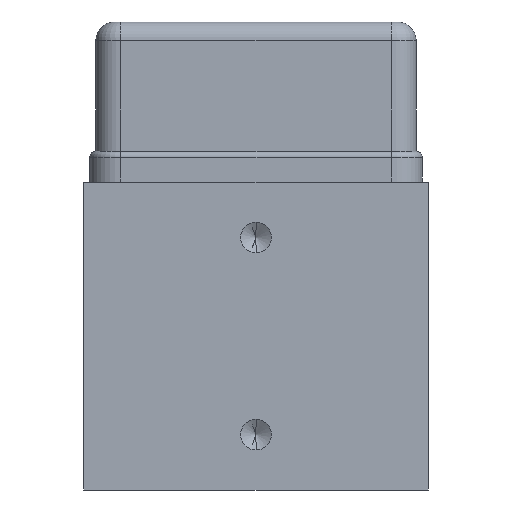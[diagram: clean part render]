
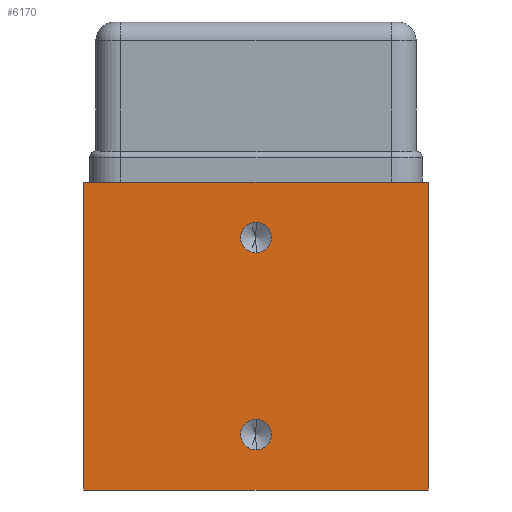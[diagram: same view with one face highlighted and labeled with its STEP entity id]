
A CAD part, front view. The second image highlights one B-rep face of the part: STEP entity #6170.
In plain terms, the highlighted planar face has unit normal (0, -1, 0).
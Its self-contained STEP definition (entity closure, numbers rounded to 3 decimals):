
#30 = VECTOR ( 'NONE', #2194, 1000. ) ;
#63 = ORIENTED_EDGE ( 'NONE', *, *, #949, .F. ) ;
#136 = CARTESIAN_POINT ( 'NONE',  ( -14., -4.5, 12.5 ) ) ;
#160 = AXIS2_PLACEMENT_3D ( 'NONE', #1490, #6901, #6924 ) ;
#248 = CARTESIAN_POINT ( 'NONE',  ( 0., -4.5, -8. ) ) ;
#401 = VERTEX_POINT ( 'NONE', #2566 ) ;
#469 = EDGE_CURVE ( 'NONE', #2289, #4056, #4036, .T. ) ;
#542 = ORIENTED_EDGE ( 'NONE', *, *, #2937, .F. ) ;
#593 = LINE ( 'NONE', #5389, #2192 ) ;
#644 = FACE_OUTER_BOUND ( 'NONE', #3718, .T. ) ;
#764 = VERTEX_POINT ( 'NONE', #3781 ) ;
#802 = CARTESIAN_POINT ( 'NONE',  ( -14., -4.5, 12.5 ) ) ;
#935 = ORIENTED_EDGE ( 'NONE', *, *, #469, .F. ) ;
#949 = EDGE_CURVE ( 'NONE', #1644, #3791, #2667, .T. ) ;
#1181 = LINE ( 'NONE', #6488, #30 ) ;
#1338 = DIRECTION ( 'NONE',  ( 0., 0., 1. ) ) ;
#1411 = EDGE_CURVE ( 'NONE', #3791, #4993, #1999, .T. ) ;
#1466 = EDGE_LOOP ( 'NONE', ( #935, #542 ) ) ;
#1490 = CARTESIAN_POINT ( 'NONE',  ( 0., -4.5, 8. ) ) ;
#1644 = VERTEX_POINT ( 'NONE', #136 ) ;
#1647 = ORIENTED_EDGE ( 'NONE', *, *, #5927, .T. ) ;
#1858 = PLANE ( 'NONE',  #6376 ) ;
#1999 = LINE ( 'NONE', #3640, #4789 ) ;
#2082 = FACE_BOUND ( 'NONE', #6124, .T. ) ;
#2175 = EDGE_CURVE ( 'NONE', #764, #4993, #593, .T. ) ;
#2192 = VECTOR ( 'NONE', #4286, 1000. ) ;
#2194 = DIRECTION ( 'NONE',  ( 0., 0., -1. ) ) ;
#2289 = VERTEX_POINT ( 'NONE', #5904 ) ;
#2356 = CIRCLE ( 'NONE', #160, 1.25 ) ;
#2361 = DIRECTION ( 'NONE',  ( 0., 1., 0. ) ) ;
#2545 = DIRECTION ( 'NONE',  ( 0., 0., -1. ) ) ;
#2566 = CARTESIAN_POINT ( 'NONE',  ( 0., -4.5, -9.25 ) ) ;
#2654 = CARTESIAN_POINT ( 'NONE',  ( 14., -4.5, -12.5 ) ) ;
#2667 = LINE ( 'NONE', #6639, #3179 ) ;
#2937 = EDGE_CURVE ( 'NONE', #4056, #2289, #2356, .T. ) ;
#3053 = ORIENTED_EDGE ( 'NONE', *, *, #1411, .F. ) ;
#3126 = ORIENTED_EDGE ( 'NONE', *, *, #4176, .F. ) ;
#3179 = VECTOR ( 'NONE', #4017, 1000. ) ;
#3411 = CARTESIAN_POINT ( 'NONE',  ( 0., -4.5, 9.25 ) ) ;
#3457 = CARTESIAN_POINT ( 'NONE',  ( 0., -4.5, 8. ) ) ;
#3640 = CARTESIAN_POINT ( 'NONE',  ( 14., -4.5, 12.5 ) ) ;
#3666 = ORIENTED_EDGE ( 'NONE', *, *, #2175, .T. ) ;
#3718 = EDGE_LOOP ( 'NONE', ( #3666, #3053, #63, #1647 ) ) ;
#3762 = FACE_BOUND ( 'NONE', #1466, .T. ) ;
#3781 = CARTESIAN_POINT ( 'NONE',  ( -14., -4.5, -12.5 ) ) ;
#3791 = VERTEX_POINT ( 'NONE', #3962 ) ;
#3810 = AXIS2_PLACEMENT_3D ( 'NONE', #248, #3996, #6764 ) ;
#3962 = CARTESIAN_POINT ( 'NONE',  ( 14., -4.5, 12.5 ) ) ;
#3978 = DIRECTION ( 'NONE',  ( 0., 0., -1. ) ) ;
#3996 = DIRECTION ( 'NONE',  ( 0., -1., 0. ) ) ;
#4017 = DIRECTION ( 'NONE',  ( 1., 0., 0. ) ) ;
#4036 = CIRCLE ( 'NONE', #6443, 1.25 ) ;
#4056 = VERTEX_POINT ( 'NONE', #3411 ) ;
#4108 = ORIENTED_EDGE ( 'NONE', *, *, #6862, .F. ) ;
#4176 = EDGE_CURVE ( 'NONE', #6750, #401, #4877, .T. ) ;
#4286 = DIRECTION ( 'NONE',  ( 1., 0., 0. ) ) ;
#4789 = VECTOR ( 'NONE', #2545, 1000. ) ;
#4809 = DIRECTION ( 'NONE',  ( 0., 0., -1. ) ) ;
#4877 = CIRCLE ( 'NONE', #5518, 1.25 ) ;
#4993 = VERTEX_POINT ( 'NONE', #2654 ) ;
#5112 = CIRCLE ( 'NONE', #3810, 1.25 ) ;
#5389 = CARTESIAN_POINT ( 'NONE',  ( -14., -4.5, -12.5 ) ) ;
#5503 = CARTESIAN_POINT ( 'NONE',  ( 0., -4.5, -6.75 ) ) ;
#5518 = AXIS2_PLACEMENT_3D ( 'NONE', #6357, #6382, #4809 ) ;
#5904 = CARTESIAN_POINT ( 'NONE',  ( 0., -4.5, 6.75 ) ) ;
#5927 = EDGE_CURVE ( 'NONE', #1644, #764, #1181, .T. ) ;
#6124 = EDGE_LOOP ( 'NONE', ( #4108, #3126 ) ) ;
#6170 = ADVANCED_FACE ( 'NONE', ( #3762, #2082, #644 ), #1858, .F. ) ;
#6357 = CARTESIAN_POINT ( 'NONE',  ( 0., -4.5, -8. ) ) ;
#6376 = AXIS2_PLACEMENT_3D ( 'NONE', #802, #2361, #1338 ) ;
#6382 = DIRECTION ( 'NONE',  ( 0., -1., 0. ) ) ;
#6443 = AXIS2_PLACEMENT_3D ( 'NONE', #3457, #6625, #3978 ) ;
#6488 = CARTESIAN_POINT ( 'NONE',  ( -14., -4.5, 12.5 ) ) ;
#6625 = DIRECTION ( 'NONE',  ( 0., -1., 0. ) ) ;
#6639 = CARTESIAN_POINT ( 'NONE',  ( -14., -4.5, 12.5 ) ) ;
#6750 = VERTEX_POINT ( 'NONE', #5503 ) ;
#6764 = DIRECTION ( 'NONE',  ( 0., 0., -1. ) ) ;
#6862 = EDGE_CURVE ( 'NONE', #401, #6750, #5112, .T. ) ;
#6901 = DIRECTION ( 'NONE',  ( 0., -1., 0. ) ) ;
#6924 = DIRECTION ( 'NONE',  ( 0., 0., -1. ) ) ;
